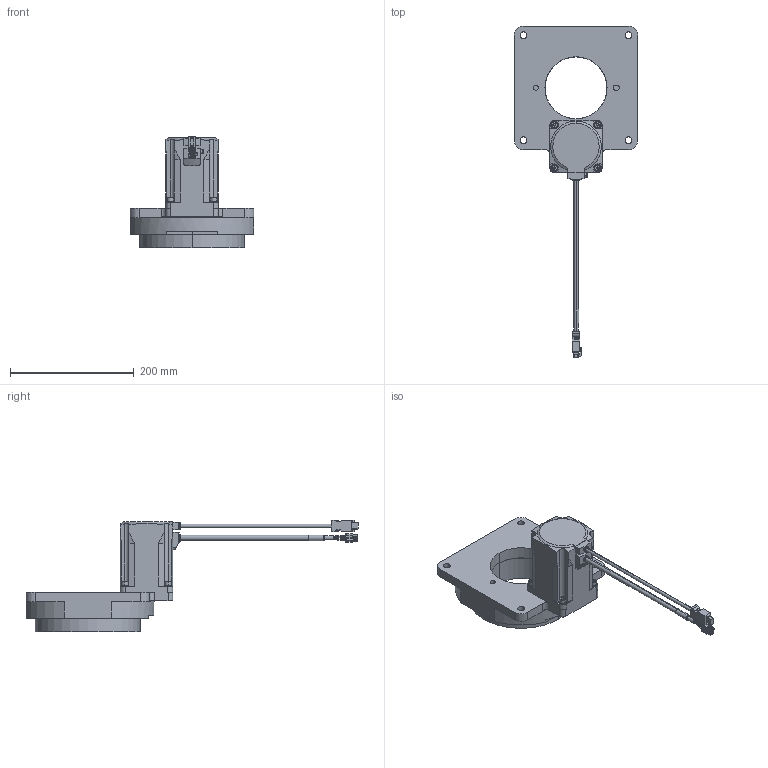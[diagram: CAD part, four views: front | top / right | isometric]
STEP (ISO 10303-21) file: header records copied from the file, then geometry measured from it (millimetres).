
FILE_DESCRIPTION (( 'STEP AP203' ), '1' );
FILE_NAME ('DGM200R-AZAC.STEP', '2015-04-17T05:06:33', ( 'om' ), ( 'Hewlett-Packard Company' ), 'SwSTEP 2.0', 'SolidWorks 2014', '' );
FILE_SCHEMA (( 'CONFIG_CONTROL_DESIGN' ));
Length unit declared in the file: millimetre
Products named in the file (1): DGM200R-AZAC
Bounding box: 200 x 537.5 x 180.9 mm (x, y, z)
Volume: 2188869 mm3; surface area: 222975.3 mm2
Topology: 1 solids, 11 shells, 889 faces, 2325 edges, 1502 vertices
Faces by surface type: plane 561, cylinder 242, cone 54, bspline 15, torus 15, sphere 2
Entity records: 30156 total; most frequent: CARTESIAN_POINT 8006, ORIENTED_EDGE 4594, DIRECTION 4529, EDGE_CURVE 2297, LINE 1653, VECTOR 1653, VERTEX_POINT 1502, AXIS2_PLACEMENT_3D 1438
